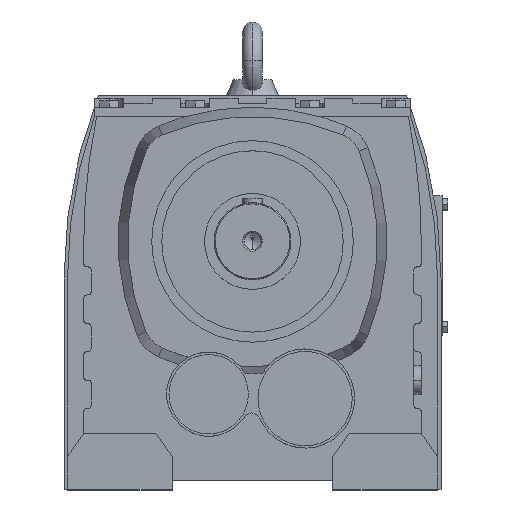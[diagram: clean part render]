
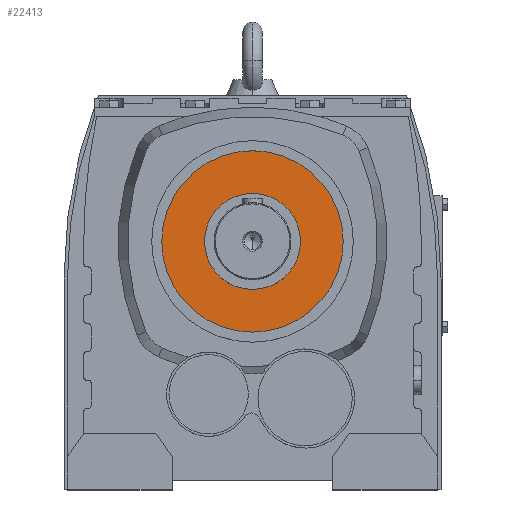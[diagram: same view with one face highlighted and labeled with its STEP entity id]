
A CAD part, top view. The second image highlights one B-rep face of the part: STEP entity #22413.
In plain terms, the highlighted planar face has unit normal (0, 0, 1).
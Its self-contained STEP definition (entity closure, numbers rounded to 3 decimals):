
#19148 = CYLINDRICAL_SURFACE('',#19149,129.938);
#19149 = AXIS2_PLACEMENT_3D('',#19150,#19151,#19152);
#19150 = CARTESIAN_POINT('',(0.,33.4,695.));
#19151 = DIRECTION('',(0.,0.,1.));
#19152 = DIRECTION('',(0.,-1.,0.));
#19178 = CYLINDRICAL_SURFACE('',#19179,129.938);
#19179 = AXIS2_PLACEMENT_3D('',#19180,#19181,#19182);
#19180 = CARTESIAN_POINT('',(0.,33.4,695.));
#19181 = DIRECTION('',(0.,0.,1.));
#19182 = DIRECTION('',(0.,-1.,0.));
#22238 = VERTEX_POINT('',#22239);
#22239 = CARTESIAN_POINT('',(0.,163.338,464.));
#22260 = VERTEX_POINT('',#22261);
#22261 = CARTESIAN_POINT('',(0.,-96.538,464.));
#22280 = EDGE_CURVE('',#22238,#22260,#22281,.T.);
#22281 = SURFACE_CURVE('',#22282,(#22287,#22293),.PCURVE_S1.);
#22282 = CIRCLE('',#22283,129.938);
#22283 = AXIS2_PLACEMENT_3D('',#22284,#22285,#22286);
#22284 = CARTESIAN_POINT('',(0.,33.4,464.));
#22285 = DIRECTION('',(0.,0.,-1.));
#22286 = DIRECTION('',(-1.,0.,0.));
#22287 = PCURVE('',#19148,#22288);
#22288 = DEFINITIONAL_REPRESENTATION('',(#22289),#22292);
#22289 = B_SPLINE_CURVE_WITH_KNOTS('',1,(#22290,#22291),.UNSPECIFIED.,
  .F.,.F.,(2,2),(1.571,4.712),
  .PIECEWISE_BEZIER_KNOTS.);
#22290 = CARTESIAN_POINT('',(3.142,-231.));
#22291 = CARTESIAN_POINT('',(0.,-231.));
#22292 = ( GEOMETRIC_REPRESENTATION_CONTEXT(2) 
PARAMETRIC_REPRESENTATION_CONTEXT() REPRESENTATION_CONTEXT('2D SPACE',''
  ) );
#22293 = PCURVE('',#22294,#22299);
#22294 = PLANE('',#22295);
#22295 = AXIS2_PLACEMENT_3D('',#22296,#22297,#22298);
#22296 = CARTESIAN_POINT('',(-56.051,12.451,464.));
#22297 = DIRECTION('',(0.,0.,-1.));
#22298 = DIRECTION('',(-1.,0.,0.));
#22299 = DEFINITIONAL_REPRESENTATION('',(#22300),#22304);
#22300 = CIRCLE('',#22301,129.938);
#22301 = AXIS2_PLACEMENT_2D('',#22302,#22303);
#22302 = CARTESIAN_POINT('',(-56.051,20.949));
#22303 = DIRECTION('',(1.,0.));
#22304 = ( GEOMETRIC_REPRESENTATION_CONTEXT(2) 
PARAMETRIC_REPRESENTATION_CONTEXT() REPRESENTATION_CONTEXT('2D SPACE',''
  ) );
#22309 = EDGE_CURVE('',#22260,#22238,#22310,.T.);
#22310 = SURFACE_CURVE('',#22311,(#22316,#22322),.PCURVE_S1.);
#22311 = CIRCLE('',#22312,129.938);
#22312 = AXIS2_PLACEMENT_3D('',#22313,#22314,#22315);
#22313 = CARTESIAN_POINT('',(0.,33.4,464.));
#22314 = DIRECTION('',(0.,0.,-1.));
#22315 = DIRECTION('',(-1.,0.,0.));
#22316 = PCURVE('',#19178,#22317);
#22317 = DEFINITIONAL_REPRESENTATION('',(#22318),#22321);
#22318 = B_SPLINE_CURVE_WITH_KNOTS('',1,(#22319,#22320),.UNSPECIFIED.,
  .F.,.F.,(2,2),(4.712,7.854),
  .PIECEWISE_BEZIER_KNOTS.);
#22319 = CARTESIAN_POINT('',(6.283,-231.));
#22320 = CARTESIAN_POINT('',(3.142,-231.));
#22321 = ( GEOMETRIC_REPRESENTATION_CONTEXT(2) 
PARAMETRIC_REPRESENTATION_CONTEXT() REPRESENTATION_CONTEXT('2D SPACE',''
  ) );
#22322 = PCURVE('',#22294,#22323);
#22323 = DEFINITIONAL_REPRESENTATION('',(#22324),#22328);
#22324 = CIRCLE('',#22325,129.938);
#22325 = AXIS2_PLACEMENT_2D('',#22326,#22327);
#22326 = CARTESIAN_POINT('',(-56.051,20.949));
#22327 = DIRECTION('',(1.,0.));
#22328 = ( GEOMETRIC_REPRESENTATION_CONTEXT(2) 
PARAMETRIC_REPRESENTATION_CONTEXT() REPRESENTATION_CONTEXT('2D SPACE',''
  ) );
#22413 = ADVANCED_FACE('',(#22414,#22418),#22294,.F.);
#22414 = FACE_BOUND('',#22415,.T.);
#22415 = EDGE_LOOP('',(#22416,#22417));
#22416 = ORIENTED_EDGE('',*,*,#22309,.F.);
#22417 = ORIENTED_EDGE('',*,*,#22280,.F.);
#22418 = FACE_BOUND('',#22419,.T.);
#22419 = EDGE_LOOP('',(#22420,#22454));
#22420 = ORIENTED_EDGE('',*,*,#22421,.F.);
#22421 = EDGE_CURVE('',#22422,#22424,#22426,.T.);
#22422 = VERTEX_POINT('',#22423);
#22423 = CARTESIAN_POINT('',(0.,-35.35,464.));
#22424 = VERTEX_POINT('',#22425);
#22425 = CARTESIAN_POINT('',(0.,102.15,464.));
#22426 = SURFACE_CURVE('',#22427,(#22432,#22443),.PCURVE_S1.);
#22427 = CIRCLE('',#22428,68.75);
#22428 = AXIS2_PLACEMENT_3D('',#22429,#22430,#22431);
#22429 = CARTESIAN_POINT('',(0.,33.4,464.));
#22430 = DIRECTION('',(0.,0.,1.));
#22431 = DIRECTION('',(-1.,0.,0.));
#22432 = PCURVE('',#22294,#22433);
#22433 = DEFINITIONAL_REPRESENTATION('',(#22434),#22442);
#22434 = ( BOUNDED_CURVE() B_SPLINE_CURVE(2,(#22435,#22436,#22437,#22438
    ,#22439,#22440,#22441),.UNSPECIFIED.,.F.,.F.) 
B_SPLINE_CURVE_WITH_KNOTS((1,2,2,2,2,1),(-2.094,0.,
    2.094,4.189,6.283,8.378),
.UNSPECIFIED.) CURVE() GEOMETRIC_REPRESENTATION_ITEM() 
RATIONAL_B_SPLINE_CURVE((1.,0.5,1.,0.5,1.,0.5,1.)) REPRESENTATION_ITEM(
  '') );
#22435 = CARTESIAN_POINT('',(12.699,20.949));
#22436 = CARTESIAN_POINT('',(12.699,-98.129));
#22437 = CARTESIAN_POINT('',(-90.426,-38.59));
#22438 = CARTESIAN_POINT('',(-193.551,20.949));
#22439 = CARTESIAN_POINT('',(-90.426,80.489));
#22440 = CARTESIAN_POINT('',(12.699,140.028));
#22441 = CARTESIAN_POINT('',(12.699,20.949));
#22442 = ( GEOMETRIC_REPRESENTATION_CONTEXT(2) 
PARAMETRIC_REPRESENTATION_CONTEXT() REPRESENTATION_CONTEXT('2D SPACE',''
  ) );
#22443 = PCURVE('',#22444,#22449);
#22444 = CYLINDRICAL_SURFACE('',#22445,68.75);
#22445 = AXIS2_PLACEMENT_3D('',#22446,#22447,#22448);
#22446 = CARTESIAN_POINT('',(0.,33.4,695.));
#22447 = DIRECTION('',(0.,0.,1.));
#22448 = DIRECTION('',(0.,-1.,0.));
#22449 = DEFINITIONAL_REPRESENTATION('',(#22450),#22453);
#22450 = B_SPLINE_CURVE_WITH_KNOTS('',1,(#22451,#22452),.UNSPECIFIED.,
  .F.,.F.,(2,2),(1.571,4.712),
  .PIECEWISE_BEZIER_KNOTS.);
#22451 = CARTESIAN_POINT('',(0.,-231.));
#22452 = CARTESIAN_POINT('',(3.142,-231.));
#22453 = ( GEOMETRIC_REPRESENTATION_CONTEXT(2) 
PARAMETRIC_REPRESENTATION_CONTEXT() REPRESENTATION_CONTEXT('2D SPACE',''
  ) );
#22454 = ORIENTED_EDGE('',*,*,#22455,.F.);
#22455 = EDGE_CURVE('',#22424,#22422,#22456,.T.);
#22456 = SURFACE_CURVE('',#22457,(#22462,#22473),.PCURVE_S1.);
#22457 = CIRCLE('',#22458,68.75);
#22458 = AXIS2_PLACEMENT_3D('',#22459,#22460,#22461);
#22459 = CARTESIAN_POINT('',(0.,33.4,464.));
#22460 = DIRECTION('',(0.,0.,1.));
#22461 = DIRECTION('',(-1.,0.,0.));
#22462 = PCURVE('',#22294,#22463);
#22463 = DEFINITIONAL_REPRESENTATION('',(#22464),#22472);
#22464 = ( BOUNDED_CURVE() B_SPLINE_CURVE(2,(#22465,#22466,#22467,#22468
    ,#22469,#22470,#22471),.UNSPECIFIED.,.F.,.F.) 
B_SPLINE_CURVE_WITH_KNOTS((1,2,2,2,2,1),(-2.094,0.,
    2.094,4.189,6.283,8.378),
.UNSPECIFIED.) CURVE() GEOMETRIC_REPRESENTATION_ITEM() 
RATIONAL_B_SPLINE_CURVE((1.,0.5,1.,0.5,1.,0.5,1.)) REPRESENTATION_ITEM(
  '') );
#22465 = CARTESIAN_POINT('',(12.699,20.949));
#22466 = CARTESIAN_POINT('',(12.699,-98.129));
#22467 = CARTESIAN_POINT('',(-90.426,-38.59));
#22468 = CARTESIAN_POINT('',(-193.551,20.949));
#22469 = CARTESIAN_POINT('',(-90.426,80.489));
#22470 = CARTESIAN_POINT('',(12.699,140.028));
#22471 = CARTESIAN_POINT('',(12.699,20.949));
#22472 = ( GEOMETRIC_REPRESENTATION_CONTEXT(2) 
PARAMETRIC_REPRESENTATION_CONTEXT() REPRESENTATION_CONTEXT('2D SPACE',''
  ) );
#22473 = PCURVE('',#22474,#22479);
#22474 = CYLINDRICAL_SURFACE('',#22475,68.75);
#22475 = AXIS2_PLACEMENT_3D('',#22476,#22477,#22478);
#22476 = CARTESIAN_POINT('',(0.,33.4,695.));
#22477 = DIRECTION('',(0.,0.,1.));
#22478 = DIRECTION('',(0.,-1.,0.));
#22479 = DEFINITIONAL_REPRESENTATION('',(#22480),#22483);
#22480 = B_SPLINE_CURVE_WITH_KNOTS('',1,(#22481,#22482),.UNSPECIFIED.,
  .F.,.F.,(2,2),(4.712,7.854),
  .PIECEWISE_BEZIER_KNOTS.);
#22481 = CARTESIAN_POINT('',(3.142,-231.));
#22482 = CARTESIAN_POINT('',(6.283,-231.));
#22483 = ( GEOMETRIC_REPRESENTATION_CONTEXT(2) 
PARAMETRIC_REPRESENTATION_CONTEXT() REPRESENTATION_CONTEXT('2D SPACE',''
  ) );
